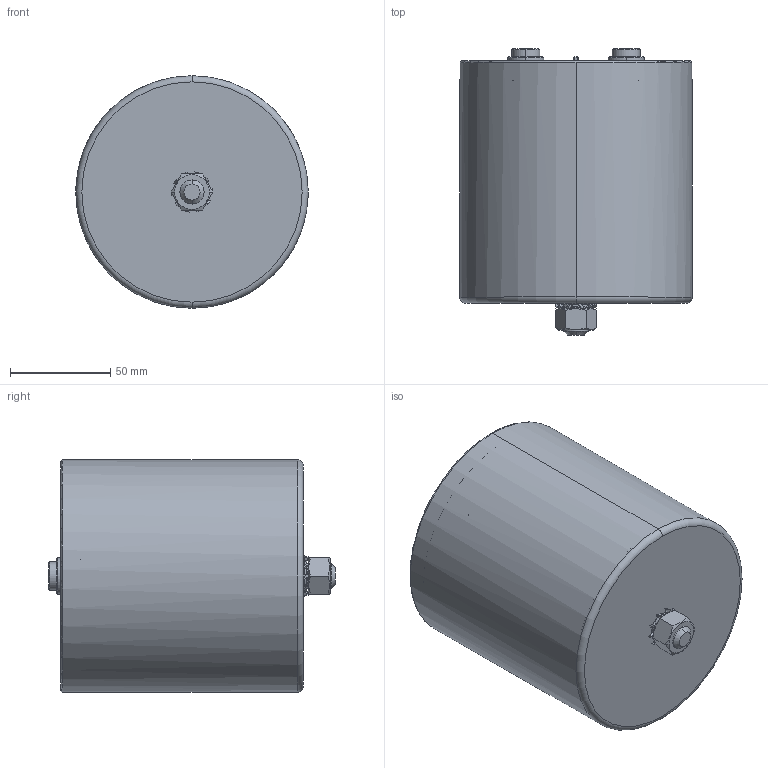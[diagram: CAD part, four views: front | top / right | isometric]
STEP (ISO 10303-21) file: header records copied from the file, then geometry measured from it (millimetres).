
FILE_DESCRIPTION (( 'STEP AP214' ), '1' );
FILE_NAME ('B25695 Series D116 Hc121 Ht127.STEP', '2024-06-04T08:40:24', ( '' ), ( '' ), 'SwSTEP 2.0', 'SolidWorks 2019', '' );
FILE_SCHEMA (( 'AUTOMOTIVE_DESIGN' ));
Length unit declared in the file: millimetre
Products named in the file (1): B25695 Series D116 Hc121 Ht127
Bounding box: 116 x 143 x 116 mm (x, y, z)
Volume: 144191.5 mm3; surface area: 148707.4 mm2
Topology: 1 solids, 2 shells, 371 faces, 1009 edges, 645 vertices
Faces by surface type: plane 137, cylinder 124, cone 50, bspline 40, torus 16, sphere 4
Entity records: 12572 total; most frequent: CARTESIAN_POINT 3598, ORIENTED_EDGE 2002, DIRECTION 1734, EDGE_CURVE 1001, AXIS2_PLACEMENT_3D 647, VERTEX_POINT 645, VECTOR 440, LINE 440
